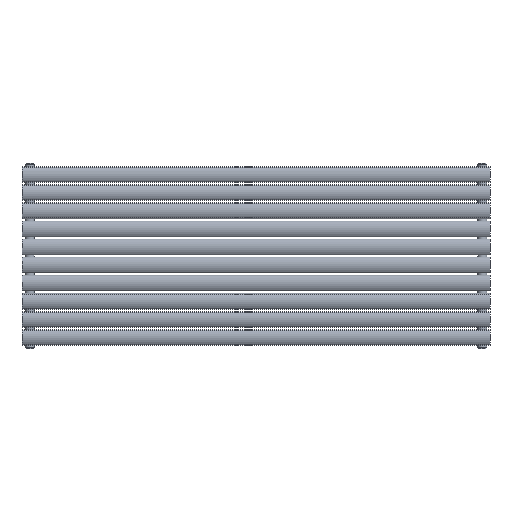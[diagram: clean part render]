
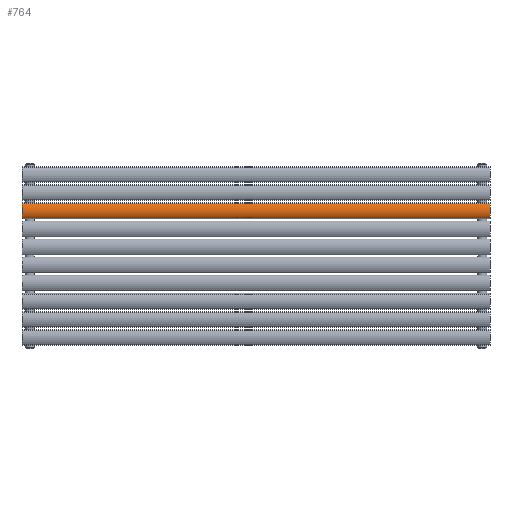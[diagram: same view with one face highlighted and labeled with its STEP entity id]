
A CAD part, top view. The second image highlights one B-rep face of the part: STEP entity #764.
In plain terms, the highlighted cylindrical face has radius 39.5 mm (diameter 79 mm), a partial arc.
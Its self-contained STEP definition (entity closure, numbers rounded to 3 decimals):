
#91=LINE('',#1912,#119);
#92=LINE('',#1915,#120);
#119=VECTOR('',#976,10.);
#120=VECTOR('',#979,10.);
#188=CIRCLE('',#852,39.5);
#191=CIRCLE('',#856,39.5);
#266=FACE_OUTER_BOUND('',#339,.T.);
#339=EDGE_LOOP('',(#628,#629,#630,#631));
#433=VERTEX_POINT('',#1903);
#434=VERTEX_POINT('',#1905);
#436=VERTEX_POINT('',#1911);
#437=VERTEX_POINT('',#1913);
#504=EDGE_CURVE('',#433,#434,#188,.T.);
#507=EDGE_CURVE('',#436,#433,#91,.T.);
#508=EDGE_CURVE('',#437,#436,#191,.T.);
#509=EDGE_CURVE('',#434,#437,#92,.T.);
#628=ORIENTED_EDGE('',*,*,#507,.F.);
#629=ORIENTED_EDGE('',*,*,#508,.F.);
#630=ORIENTED_EDGE('',*,*,#509,.F.);
#631=ORIENTED_EDGE('',*,*,#504,.F.);
#742=CYLINDRICAL_SURFACE('',#855,39.5);
#764=ADVANCED_FACE('',(#266),#742,.T.);
#852=AXIS2_PLACEMENT_3D('',#1906,#968,#969);
#855=AXIS2_PLACEMENT_3D('',#1910,#974,#975);
#856=AXIS2_PLACEMENT_3D('',#1914,#977,#978);
#968=DIRECTION('center_axis',(0.,0.,-1.));
#969=DIRECTION('ref_axis',(-0.552,-0.834,0.));
#974=DIRECTION('center_axis',(0.,0.,1.));
#975=DIRECTION('ref_axis',(-0.552,-0.834,0.));
#976=DIRECTION('',(0.,0.,-1.));
#977=DIRECTION('center_axis',(0.,0.,1.));
#978=DIRECTION('ref_axis',(-0.552,-0.834,0.));
#979=DIRECTION('',(0.,0.,1.));
#1903=CARTESIAN_POINT('',(21.816,-18.429,-750.));
#1905=CARTESIAN_POINT('',(-21.816,-18.429,-750.));
#1906=CARTESIAN_POINT('Origin',(0.,14.5,-750.));
#1910=CARTESIAN_POINT('Origin',(0.,14.5,0.));
#1911=CARTESIAN_POINT('',(21.816,-18.429,750.));
#1912=CARTESIAN_POINT('',(21.816,-18.429,0.));
#1913=CARTESIAN_POINT('',(-21.816,-18.429,750.));
#1914=CARTESIAN_POINT('Origin',(0.,14.5,750.));
#1915=CARTESIAN_POINT('',(-21.816,-18.429,0.));
